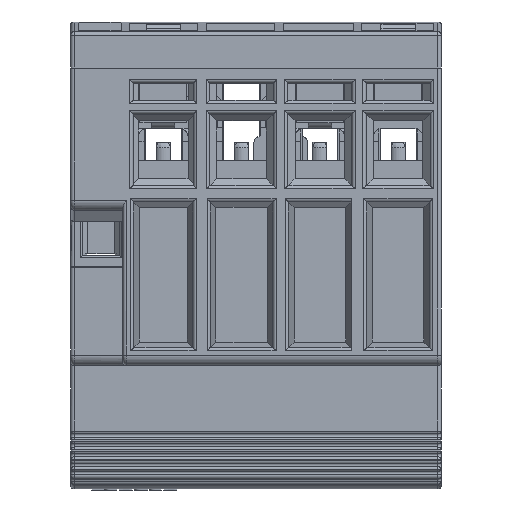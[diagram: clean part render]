
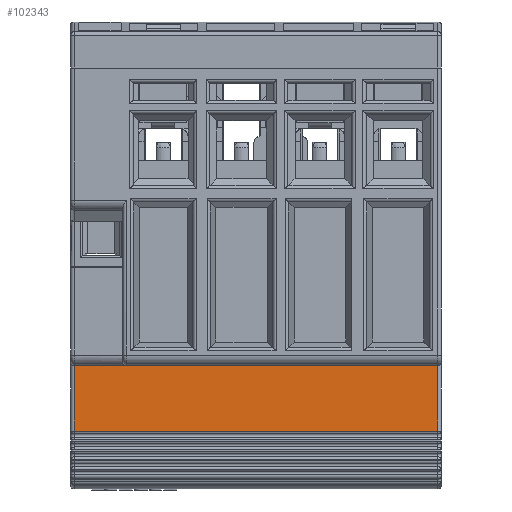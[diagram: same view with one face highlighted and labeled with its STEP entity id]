
A CAD part, front view. The second image highlights one B-rep face of the part: STEP entity #102343.
In plain terms, the highlighted planar face has unit normal (0, -1, 0).
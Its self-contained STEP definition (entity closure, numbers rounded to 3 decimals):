
#5337=DIRECTION('',(0.,0.,1.));
#5338=VECTOR('',#5337,9.576);
#5339=CARTESIAN_POINT('',(22.9,-22.5,-36.676));
#5340=LINE('',#5339,#5338);
#5341=DIRECTION('',(1.,0.,0.));
#5342=VECTOR('',#5341,53.);
#5343=CARTESIAN_POINT('',(-30.1,-22.5,-36.676));
#5344=LINE('',#5343,#5342);
#5345=DIRECTION('',(0.,0.,1.));
#5346=VECTOR('',#5345,9.576);
#5347=CARTESIAN_POINT('',(-30.1,-22.5,-36.676));
#5348=LINE('',#5347,#5346);
#5349=DIRECTION('',(1.,0.,0.));
#5350=VECTOR('',#5349,47.6);
#5351=CARTESIAN_POINT('',(-30.1,-22.5,-27.1));
#5352=LINE('',#5351,#5350);
#5353=DIRECTION('',(0.,0.,1.));
#5354=VECTOR('',#5353,5.);
#5355=CARTESIAN_POINT('',(18.,-22.5,-26.6));
#5356=LINE('',#5355,#5354);
#5357=DIRECTION('',(1.,0.,0.));
#5358=VECTOR('',#5357,4.9);
#5359=CARTESIAN_POINT('',(18.,-22.5,-21.6));
#5360=LINE('',#5359,#5358);
#5361=DIRECTION('',(0.,0.,-1.));
#5362=VECTOR('',#5361,5.);
#5363=CARTESIAN_POINT('',(23.4,-22.5,-21.1));
#5364=LINE('',#5363,#5362);
#5365=DIRECTION('',(1.,0.,0.));
#5366=VECTOR('',#5365,1.);
#5367=CARTESIAN_POINT('',(21.9,-22.5,-27.1));
#5368=LINE('',#5367,#5366);
#78233=CARTESIAN_POINT('',(17.5,-22.5,-26.6));
#78234=DIRECTION('',(0.,1.,0.));
#78235=DIRECTION('',(1.,0.,0.));
#78236=AXIS2_PLACEMENT_3D('',#78233,#78234,#78235);
#78294=CARTESIAN_POINT('',(21.9,-22.5,-26.6));
#78295=DIRECTION('',(0.,1.,0.));
#78296=DIRECTION('',(0.,0.,-1.));
#78297=AXIS2_PLACEMENT_3D('',#78294,#78295,#78296);
#78303=DIRECTION('',(0.,0.,1.));
#78304=VECTOR('',#78303,1.5);
#78305=CARTESIAN_POINT('',(21.4,-22.5,-26.6));
#78306=LINE('',#78305,#78304);
#78319=DIRECTION('',(1.,0.,0.));
#78320=VECTOR('',#78319,0.5);
#78321=CARTESIAN_POINT('',(21.4,-22.5,-25.1));
#78322=LINE('',#78321,#78320);
#78331=DIRECTION('',(0.832,0.,-0.555));
#78332=VECTOR('',#78331,1.803);
#78333=CARTESIAN_POINT('',(21.9,-22.5,-25.1));
#78334=LINE('',#78333,#78332);
#78358=CARTESIAN_POINT('',(22.9,-22.5,-21.1));
#78359=DIRECTION('',(0.,1.,0.));
#78360=DIRECTION('',(1.,0.,0.));
#78361=AXIS2_PLACEMENT_3D('',#78358,#78359,#78360);
#94871=CARTESIAN_POINT('',(18.,-22.5,-21.6));
#94872=VERTEX_POINT('',#94871);
#94879=CARTESIAN_POINT('',(21.4,-22.5,-25.1));
#94881=VERTEX_POINT('',#94879);
#96297=CARTESIAN_POINT('',(22.9,-22.5,-21.6));
#96298=VERTEX_POINT('',#96297);
#96301=CARTESIAN_POINT('',(21.9,-22.5,-25.1));
#96303=VERTEX_POINT('',#96301);
#96305=CARTESIAN_POINT('',(23.4,-22.5,-26.1));
#96307=VERTEX_POINT('',#96305);
#96353=CARTESIAN_POINT('',(23.4,-22.5,-21.1));
#96354=VERTEX_POINT('',#96353);
#96810=CARTESIAN_POINT('',(21.4,-22.5,-26.6));
#96812=VERTEX_POINT('',#96810);
#96814=CARTESIAN_POINT('',(21.9,-22.5,-27.1));
#96816=VERTEX_POINT('',#96814);
#96821=CARTESIAN_POINT('',(17.5,-22.5,-27.1));
#96823=VERTEX_POINT('',#96821);
#96825=CARTESIAN_POINT('',(18.,-22.5,-26.6));
#96827=VERTEX_POINT('',#96825);
#97183=CARTESIAN_POINT('',(22.9,-22.5,-36.676));
#97184=CARTESIAN_POINT('',(22.9,-22.5,-27.1));
#97185=VERTEX_POINT('',#97183);
#97186=VERTEX_POINT('',#97184);
#97227=CARTESIAN_POINT('',(-30.1,-22.5,-36.676));
#97228=CARTESIAN_POINT('',(-30.1,-22.5,-27.1));
#97229=VERTEX_POINT('',#97227);
#97230=VERTEX_POINT('',#97228);
#102311=CARTESIAN_POINT('',(-30.6,-22.5,-27.1));
#102312=DIRECTION('',(0.,-1.,0.));
#102313=DIRECTION('',(0.,0.,-1.));
#102314=AXIS2_PLACEMENT_3D('',#102311,#102312,#102313);
#102315=PLANE('',#102314);
#102317=ORIENTED_EDGE('',*,*,#102316,.F.);
#102319=ORIENTED_EDGE('',*,*,#102318,.F.);
#102321=ORIENTED_EDGE('',*,*,#102320,.T.);
#102322=ORIENTED_EDGE('',*,*,#102257,.T.);
#102324=ORIENTED_EDGE('',*,*,#102323,.F.);
#102326=ORIENTED_EDGE('',*,*,#102325,.T.);
#102328=ORIENTED_EDGE('',*,*,#102327,.T.);
#102330=ORIENTED_EDGE('',*,*,#102329,.F.);
#102331=ORIENTED_EDGE('',*,*,#98510,.T.);
#102333=ORIENTED_EDGE('',*,*,#102332,.F.);
#102335=ORIENTED_EDGE('',*,*,#102334,.F.);
#102337=ORIENTED_EDGE('',*,*,#102336,.F.);
#102339=ORIENTED_EDGE('',*,*,#102338,.F.);
#102340=ORIENTED_EDGE('',*,*,#102269,.T.);
#102341=EDGE_LOOP('',(#102317,#102319,#102321,#102322,#102324,#102326,#102328,
#102330,#102331,#102333,#102335,#102337,#102339,#102340));
#102342=FACE_OUTER_BOUND('',#102341,.F.);
#102343=ADVANCED_FACE('',(#102342),#102315,.T.);
#78237=CIRCLE('',#78236,0.5);
#78298=CIRCLE('',#78297,0.5);
#78362=CIRCLE('',#78361,0.5);
#98510=EDGE_CURVE('',#96354,#96307,#5364,.T.);
#102257=EDGE_CURVE('',#97230,#96823,#5352,.T.);
#102269=EDGE_CURVE('',#96816,#97186,#5368,.T.);
#102316=EDGE_CURVE('',#97185,#97186,#5340,.T.);
#102318=EDGE_CURVE('',#97229,#97185,#5344,.T.);
#102320=EDGE_CURVE('',#97229,#97230,#5348,.T.);
#102323=EDGE_CURVE('',#96827,#96823,#78237,.T.);
#102325=EDGE_CURVE('',#96827,#94872,#5356,.T.);
#102327=EDGE_CURVE('',#94872,#96298,#5360,.T.);
#102329=EDGE_CURVE('',#96354,#96298,#78362,.T.);
#102332=EDGE_CURVE('',#96303,#96307,#78334,.T.);
#102334=EDGE_CURVE('',#94881,#96303,#78322,.T.);
#102336=EDGE_CURVE('',#96812,#94881,#78306,.T.);
#102338=EDGE_CURVE('',#96816,#96812,#78298,.T.);
